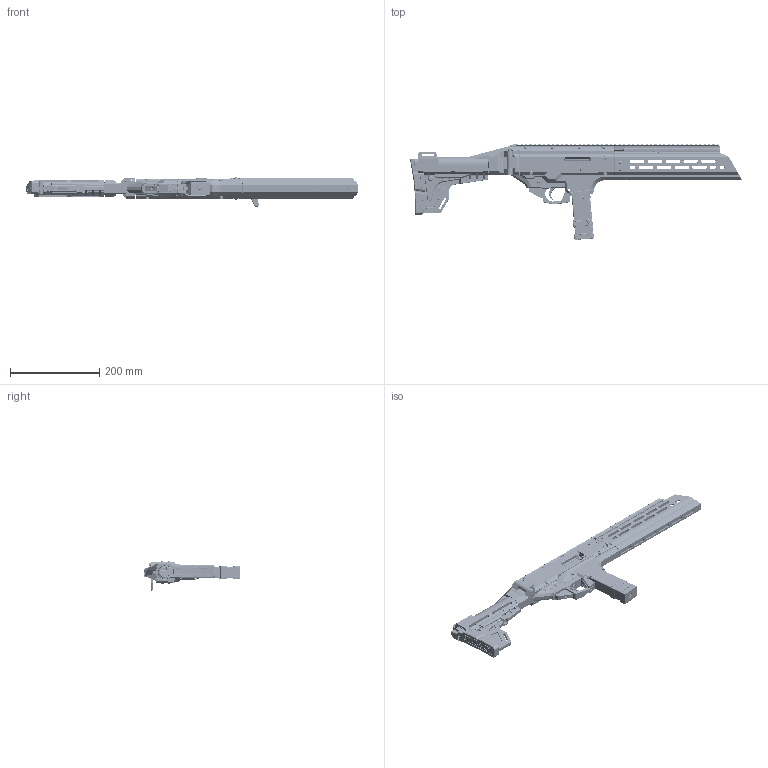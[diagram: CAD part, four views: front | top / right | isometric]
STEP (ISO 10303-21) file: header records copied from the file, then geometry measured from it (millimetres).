
FILE_DESCRIPTION(/* description */ (''),/* implementation_level */ (''),FILE_NAME(/* name */ (''),/* time_stamp */ (''),/* author */ (''),/* organization */ (''),/* preprocessor_version */ (''),/* originating_system */ (''),/* authorisation */ '');
FILE_NAME(/* name */ (''),/* time_stamp */ (''),/* author */ (''),/* organization */ (''),/* preprocessor_version */ (''),/* originating_system */ (''),/* authorisation */ '');
FILE_SCHEMA (('AUTOMOTIVE_DESIGN { 1 0 10303 214 3 1 1 }'));
Products named in the file (69): ScARpion22 - Release Candidate v1.0; Upper Receiver; Receiver Right; Numbers; Receiver Left; Lower Receiver; Scarpion Lower; 22 Scorpion 10RD Magazine v3; 22 Scorpion Mag Body v3; 22 Scorpion Mag Lock Plate; 22 Scorpion 20RD Magazine v3; 22 Scorpion Mag 20RD Body v3; 22 Scorpion Mag 20RD Lock Plate v2; 22 Scorpion Mag Base Plate; 22 Scorpion Mag Follower; Magazine Release v1; Charging Handle v3; Charging Handle C; Plug; Retainer; Bolt Interface v3; 22Scorpion2_351322 Cursd Carbine Mod Type 2; 22Scorpion2_351322 Cursd Carbine Mod v2; 91239A144_CLASS 10.9 STL BUTTON-HEAD SOCKET CAP SCREW_91239A144; Fasteners; Fastener Pair 40mm; Fastener Pair 40mm Front; Fastener Pair 40mm Front Lower; 91290A184 (1); Fastener Pair 35mm - Retainer; 91290A180; Fasteners - 35mm - Takedown; 91290A182_BLACK-OXIDE CLASS 12.9 SOCKET HEAD CAP SCREW; Fastener Pair 25mm; 91290A176_BLACK-OXIDE CLASS 12.9 SOCKET HEAD CAP SCREW; Fastener Pair 16mm; Fastener Pair 16mm (1); Fastener Pair 16mm (2); Fastener Pair 16mm (3); 91290A154_BLACK-OXIDE CLASS 12.9 SOCKET HEAD CAP SCREW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
Assembly tree (97 placements, depth 4):
  ScARpion22 - Release Candidate v1.0
    Upper Receiver
      Receiver Right
        Numbers
      Receiver Left
    Lower Receiver
      Scarpion Lower
    22 Scorpion 10RD Magazine v3
      22 Scorpion Mag Body v3
      22 Scorpion Mag Base Plate
      22 Scorpion Mag Follower
      22 Scorpion Mag Lock Plate
    22 Scorpion 20RD Magazine v3
      22 Scorpion Mag 20RD Body v3
      22 Scorpion Mag 20RD Lock Plate v2
      22 Scorpion Mag Base Plate
      22 Scorpion Mag Follower
    Magazine Release v1
    Charging Handle v3
      Charging Handle C
      Plug
      Retainer
    Bolt Interface v3
    22Scorpion2_351322 Cursd Carbine Mod Type 2
      91239A144_CLASS 10.9 STL BUTTON-HEAD SOCKET CAP SCREW_91239A144  x4
    22Scorpion2_351322 Cursd Carbine Mod v2
      91239A144_CLASS 10.9 STL BUTTON-HEAD SOCKET CAP SCREW_91239A144  x4
    Fasteners
      Fastener Pair 40mm
        90819A111
        91290A184 (1)
      Fastener Pair 40mm Front
        91290A184 (1)
        90819A111
      Fastener Pair 40mm Front Lower
        90819A111
        91290A184 (1)
      Fastener Pair 35mm - Retainer
        91290A180
        91290A182_BLACK-OXIDE CLASS 12.9 SOCKET HEAD CAP SCREW
        90819A111
      Fasteners - 35mm - Takedown
        90819A111  x2
        91290A182_BLACK-OXIDE CLASS 12.9 SOCKET HEAD CAP SCREW
      Fastener Pair 25mm
        91290A176_BLACK-OXIDE CLASS 12.9 SOCKET HEAD CAP SCREW
        90819A111
      Fastener Pair 16mm
        91290A154_BLACK-OXIDE CLASS 12.9 SOCKET HEAD CAP SCREW
        90819A111
      Fastener Pair 16mm (1)
        91290A154_BLACK-OXIDE CLASS 12.9 SOCKET HEAD CAP SCREW
        90819A111
      Fastener Pair 16mm (2)
        91290A154_BLACK-OXIDE CLASS 12.9 SOCKET HEAD CAP SCREW
        90819A111
      Fastener Pair 16mm (3)
        91290A154_BLACK-OXIDE CLASS 12.9 SOCKET HEAD CAP SCREW
        90819A111
    Barrel Retainer
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Bounding box: 744.19 x 215.4 x 65.3 mm (x, y, z)
Volume: 1733516.1 mm3; surface area: 786330 mm2
Topology: 98 solids, 105 shells, 15274 faces, 39348 edges, 24707 vertices
Faces by surface type: plane 7079, cylinder 4654, bspline 1919, torus 892, cone 553, sphere 177
Full cylindrical faces by diameter (mm): 1 x1, 2 x1, 2.032 x1, 2.5 x1, 2.75 x4, 3 x3, 3.091 x446, 3.175 x2, 3.2 x2, 3.359 x11, 3.441 x55, 3.469 x4, 3.962 x3, 3.969 x6, 4 x543, 4.013 x2, 4.073 x3, 4.088 x2, 4.216 x1, 4.25 x19, 4.297 x1, 4.346 x11, 4.5 x1, 4.605 x1, 5.035 x12, 5.5 x1, 6 x2, 6.147 x12, 6.25 x1, 6.75 x3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
Entity records: 610679 total; most frequent: CARTESIAN_POINT 290347, ORIENTED_EDGE 68688, DIRECTION 63106, EDGE_CURVE 34344, VERTEX_POINT 21696, LINE 21654, VECTOR 21654, AXIS2_PLACEMENT_3D 20726
